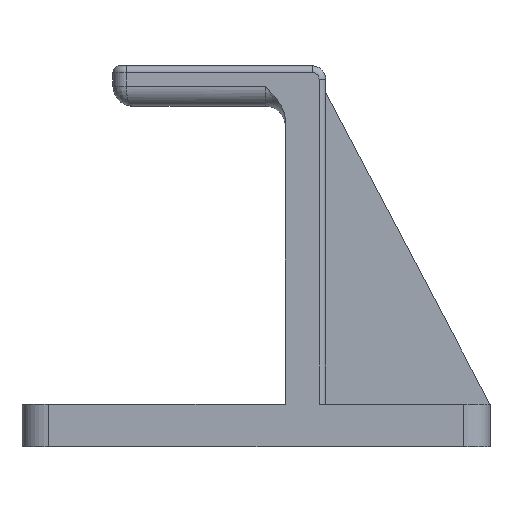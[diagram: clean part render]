
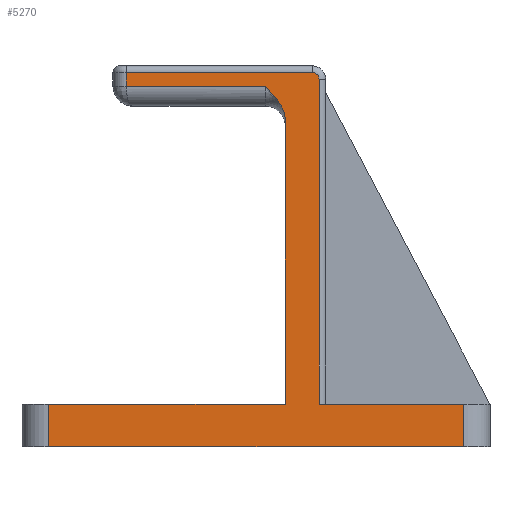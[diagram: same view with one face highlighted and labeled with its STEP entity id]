
A CAD part, left-side view. The second image highlights one B-rep face of the part: STEP entity #5270.
In plain terms, the highlighted planar face has unit normal (-1, 0, 0).
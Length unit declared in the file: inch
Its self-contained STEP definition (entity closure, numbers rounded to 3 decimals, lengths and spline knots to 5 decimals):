
#1 = EDGE_CURVE ( 'NONE', #1268, #1269, #3005, .T. ) ;
#5 = EDGE_CURVE ( 'NONE', #1269, #1171, #3013, .T. ) ;
#6 = EDGE_CURVE ( 'NONE', #1344, #1345, #3015, .T. ) ;
#7 = EDGE_CURVE ( 'NONE', #1344, #1352, #3017, .T. ) ;
#8 = EDGE_CURVE ( 'NONE', #1271, #1268, #3004, .T. ) ;
#9 = EDGE_CURVE ( 'NONE', #1171, #1335, #7888, .T. ) ;
#10 = EDGE_CURVE ( 'NONE', #1163, #1352, #3020, .T. ) ;
#11 = EDGE_CURVE ( 'NONE', #1307, #1346, #3023, .T. ) ;
#13 = EDGE_CURVE ( 'NONE', #1346, #1163, #3022, .T. ) ;
#658 = CARTESIAN_POINT ( 'NONE',  ( -3., 2.2, 0.4 ) ) ;
#663 = PLANE ( 'NONE',  #2618 ) ;
#668 = DIRECTION ( 'NONE',  ( 1., 0., 0. ) ) ;
#669 = DIRECTION ( 'NONE',  ( 0., 1., 0. ) ) ;
#1066 = CARTESIAN_POINT ( 'NONE',  ( -3., 1.22, 0.4 ) ) ;
#1163 = VERTEX_POINT ( 'NONE', #6507 ) ;
#1171 = VERTEX_POINT ( 'NONE', #6450 ) ;
#1268 = VERTEX_POINT ( 'NONE', #6319 ) ;
#1269 = VERTEX_POINT ( 'NONE', #6314 ) ;
#1271 = VERTEX_POINT ( 'NONE', #6364 ) ;
#1307 = VERTEX_POINT ( 'NONE', #6261 ) ;
#1335 = VERTEX_POINT ( 'NONE', #6271 ) ;
#1341 = VERTEX_POINT ( 'NONE', #6168 ) ;
#1344 = VERTEX_POINT ( 'NONE', #6169 ) ;
#1345 = VERTEX_POINT ( 'NONE', #6170 ) ;
#1346 = VERTEX_POINT ( 'NONE', #6171 ) ;
#1352 = VERTEX_POINT ( 'NONE', #6163 ) ;
#1366 = CARTESIAN_POINT ( 'NONE',  ( -3., -0.5925, 0.4 ) ) ;
#1367 = DIRECTION ( 'NONE',  ( 0., 0., 1. ) ) ;
#1368 = CARTESIAN_POINT ( 'NONE',  ( -3., 2.2, 3.3875 ) ) ;
#1369 = DIRECTION ( 'NONE',  ( 0., -1., 0. ) ) ;
#1409 = DIRECTION ( 'NONE',  ( 0., 0., -1. ) ) ;
#1412 = CARTESIAN_POINT ( 'NONE',  ( -3., 2.2, 3.5175 ) ) ;
#1414 = CARTESIAN_POINT ( 'NONE',  ( -3., -0.0875, 3.3875 ) ) ;
#1415 = CARTESIAN_POINT ( 'NONE',  ( -3., -0.11022, 3.36478 ) ) ;
#1416 = CARTESIAN_POINT ( 'NONE',  ( -3., -0.13299, 3.34201 ) ) ;
#1417 = DIRECTION ( 'NONE',  ( 0., 1., 0. ) ) ;
#1418 = CARTESIAN_POINT ( 'NONE',  ( -3., 2.2, 0. ) ) ;
#1419 = DIRECTION ( 'NONE',  ( 0., -1., 0. ) ) ;
#1420 = CARTESIAN_POINT ( 'NONE',  ( -3., -0.275, 3.09524 ) ) ;
#1421 = CARTESIAN_POINT ( 'NONE',  ( -3., -0.26883, 3.12666 ) ) ;
#1422 = CARTESIAN_POINT ( 'NONE',  ( -3., -0.24716, 3.18773 ) ) ;
#1423 = CARTESIAN_POINT ( 'NONE',  ( -3., -0.23214, 3.21593 ) ) ;
#1424 = CARTESIAN_POINT ( 'NONE',  ( -3., -0.20552, 3.25595 ) ) ;
#1425 = CARTESIAN_POINT ( 'NONE',  ( -3., -0.19592, 3.26893 ) ) ;
#1426 = CARTESIAN_POINT ( 'NONE',  ( -3., -0.17583, 3.2941 ) ) ;
#1427 = CARTESIAN_POINT ( 'NONE',  ( -3., -0.16534, 3.30628 ) ) ;
#1428 = CARTESIAN_POINT ( 'NONE',  ( -3., 2.2, 0.4 ) ) ;
#1429 = CARTESIAN_POINT ( 'NONE',  ( -3., -0.275, 3.06274 ) ) ;
#1430 = CARTESIAN_POINT ( 'NONE',  ( -3., -1.95, 0.4 ) ) ;
#1431 = DIRECTION ( 'NONE',  ( 0., 0., 1. ) ) ;
#1433 = DIRECTION ( 'NONE',  ( 0., 0., -1. ) ) ;
#1434 = CARTESIAN_POINT ( 'NONE',  ( -3., 1.95, 0.4 ) ) ;
#1437 = DIRECTION ( 'NONE',  ( 0., -1., 0. ) ) ;
#2618 = AXIS2_PLACEMENT_3D ( 'NONE', #658, #668, #669 ) ;
#2641 = AXIS2_PLACEMENT_3D ( 'NONE', #10701, #10707, #10708 ) ;
#2961 = ORIENTED_EDGE ( 'NONE', *, *, #7, .F. ) ;
#3004 = LINE ( 'NONE', #1412, #3019 ) ;
#3005 = LINE ( 'NONE', #1066, #3006 ) ;
#3006 = VECTOR ( 'NONE', #1409, 39.37008 ) ;
#3008 = VECTOR ( 'NONE', #1431, 39.37008 ) ;
#3013 = LINE ( 'NONE', #1368, #3014 ) ;
#3014 = VECTOR ( 'NONE', #1369, 39.37008 ) ;
#3015 = LINE ( 'NONE', #1366, #3016 ) ;
#3016 = VECTOR ( 'NONE', #1367, 39.37008 ) ;
#3017 = LINE ( 'NONE', #1428, #3018 ) ;
#3018 = VECTOR ( 'NONE', #1419, 39.37008 ) ;
#3019 = VECTOR ( 'NONE', #1417, 39.37008 ) ;
#3020 = LINE ( 'NONE', #1430, #3008 ) ;
#3022 = LINE ( 'NONE', #1418, #3027 ) ;
#3023 = LINE ( 'NONE', #1434, #3024 ) ;
#3024 = VECTOR ( 'NONE', #1433, 39.37008 ) ;
#3027 = VECTOR ( 'NONE', #1437, 39.37008 ) ;
#3076 = LINE ( 'NONE', #10682, #3077 ) ;
#3077 = VECTOR ( 'NONE', #10683, 39.37008 ) ;
#3093 = CIRCLE ( 'NONE', #2641, 0.0625 ) ;
#5270 = ADVANCED_FACE ( 'NONE', ( #7736 ), #663, .F. ) ;
#6163 = CARTESIAN_POINT ( 'NONE',  ( -3., -1.95, 0.4 ) ) ;
#6168 = CARTESIAN_POINT ( 'NONE',  ( -3., -0.275, 0.4 ) ) ;
#6169 = CARTESIAN_POINT ( 'NONE',  ( -3., -0.5925, 0.4 ) ) ;
#6170 = CARTESIAN_POINT ( 'NONE',  ( -3., -0.5925, 3.455 ) ) ;
#6171 = CARTESIAN_POINT ( 'NONE',  ( -3., 1.95, 0. ) ) ;
#6261 = CARTESIAN_POINT ( 'NONE',  ( -3., 1.95, 0.4 ) ) ;
#6271 = CARTESIAN_POINT ( 'NONE',  ( -3., -0.275, 3.06274 ) ) ;
#6314 = CARTESIAN_POINT ( 'NONE',  ( -3., 1.22, 3.3875 ) ) ;
#6319 = CARTESIAN_POINT ( 'NONE',  ( -3., 1.22, 3.5175 ) ) ;
#6364 = CARTESIAN_POINT ( 'NONE',  ( -3., -0.53, 3.5175 ) ) ;
#6450 = CARTESIAN_POINT ( 'NONE',  ( -3., -0.0875, 3.3875 ) ) ;
#6507 = CARTESIAN_POINT ( 'NONE',  ( -3., -1.95, 0. ) ) ;
#6864 = VECTOR ( 'NONE', #10402, 39.37008 ) ;
#6870 = LINE ( 'NONE', #10396, #6864 ) ;
#7736 = FACE_OUTER_BOUND ( 'NONE', #11373, .T. ) ;
#7888 = B_SPLINE_CURVE_WITH_KNOTS ( 'NONE', 3,
 ( #1414, #1415, #1416, #1427, #1426, #1425, #1424, #1423, #1422, #1421, #1420, #1429 ),
 .UNSPECIFIED., .F., .F.,
 ( 4, 2, 2, 2, 2, 4 ),
 ( -0.00001, 0.00243, 0.00366, 0.00488, 0.00733, 0.00978 ),
 .UNSPECIFIED. ) ;
#8790 = EDGE_CURVE ( 'NONE', #1307, #1341, #6870, .T. ) ;
#8838 = EDGE_CURVE ( 'NONE', #1341, #1335, #3076, .T. ) ;
#8849 = EDGE_CURVE ( 'NONE', #1345, #1271, #3093, .T. ) ;
#10396 = CARTESIAN_POINT ( 'NONE',  ( -3., 2.2, 0.4 ) ) ;
#10402 = DIRECTION ( 'NONE',  ( 0., -1., 0. ) ) ;
#10682 = CARTESIAN_POINT ( 'NONE',  ( -3., -0.275, 3.2 ) ) ;
#10683 = DIRECTION ( 'NONE',  ( 0., 0., 1. ) ) ;
#10701 = CARTESIAN_POINT ( 'NONE',  ( -3., -0.53, 3.455 ) ) ;
#10707 = DIRECTION ( 'NONE',  ( -1., 0., 0. ) ) ;
#10708 = DIRECTION ( 'NONE',  ( 0., 1., 0. ) ) ;
#10801 = ORIENTED_EDGE ( 'NONE', *, *, #8, .T. ) ;
#10802 = ORIENTED_EDGE ( 'NONE', *, *, #8849, .T. ) ;
#10837 = ORIENTED_EDGE ( 'NONE', *, *, #5, .T. ) ;
#10870 = ORIENTED_EDGE ( 'NONE', *, *, #8838, .F. ) ;
#10892 = ORIENTED_EDGE ( 'NONE', *, *, #10, .T. ) ;
#10907 = ORIENTED_EDGE ( 'NONE', *, *, #11, .T. ) ;
#10909 = ORIENTED_EDGE ( 'NONE', *, *, #9, .T. ) ;
#10936 = ORIENTED_EDGE ( 'NONE', *, *, #8790, .F. ) ;
#11050 = ORIENTED_EDGE ( 'NONE', *, *, #6, .T. ) ;
#11203 = ORIENTED_EDGE ( 'NONE', *, *, #1, .T. ) ;
#11250 = ORIENTED_EDGE ( 'NONE', *, *, #13, .T. ) ;
#11373 = EDGE_LOOP ( 'NONE', ( #2961, #11050, #10802, #10801, #11203, #10837, #10909, #10870, #10936, #10907, #11250, #10892 ) ) ;
